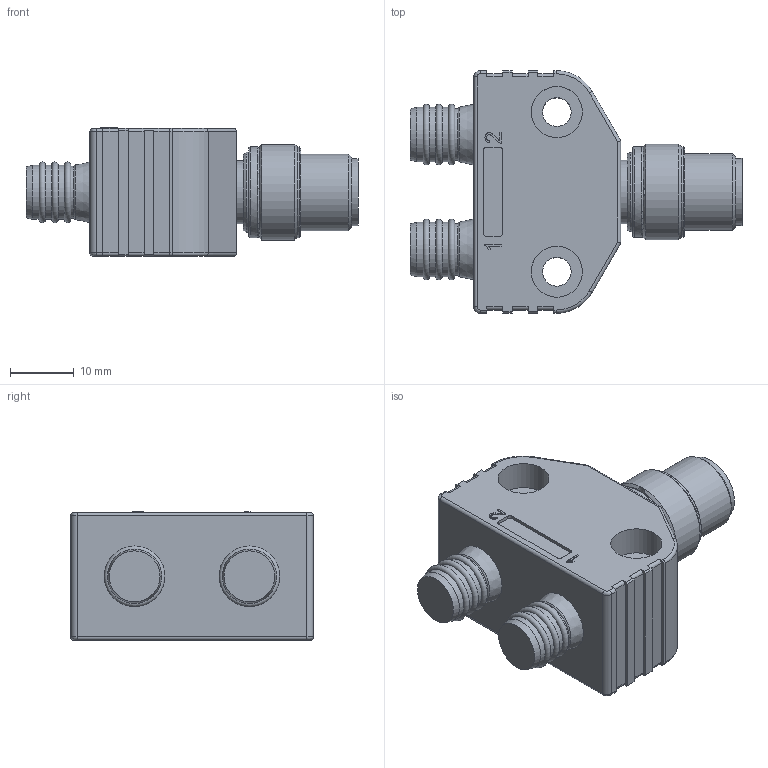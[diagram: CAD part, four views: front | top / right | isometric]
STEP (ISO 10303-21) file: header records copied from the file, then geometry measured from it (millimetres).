
FILE_DESCRIPTION(/* description */ (''),/* implementation_level */ '2;1');
FILE_NAME(/* name */ 'L:\CAD Inventor\Workspace\Catalogs\CATALOG-TURCK CONNECTORS\VB2-FSM_2 CABLES.stp',/* time_stamp */ '2021-07-14T06:32:09-05:00',/* author */ ('RSwans'),/* organization */ (''),/* preprocessor_version */ 'ST-DEVELOPER v16.5',/* originating_system */ 'Autodesk Inventor 2017',/* authorisation */ '');
FILE_SCHEMA (('AUTOMOTIVE_DESIGN { 1 0 10303 214 3 1 1 }'));
Length unit declared in the file: millimetre
Products named in the file (1): Part2
Bounding box: 52 x 38 x 20.1 mm (x, y, z)
Volume: 17944.3 mm3; surface area: 7549.6 mm2
Topology: 1 solids, 1 shells, 200 faces, 505 edges, 318 vertices
Faces by surface type: plane 81, cylinder 73, torus 19, bspline 17, cone 10
Full cylindrical faces by diameter (mm): 1.8 x1, 4.5 x2, 6.5 x2, 8 x2, 8.143 x2, 8.3 x1, 8.509 x6, 9.9 x1, 10 x1, 10.5 x1, 10.7 x1, 12 x1, 12.5 x1, 13.2 x1, 14.2 x2, 15 x1
Entity records: 6197 total; most frequent: CARTESIAN_POINT 1298, DIRECTION 969, ORIENTED_EDGE 906, EDGE_CURVE 453, AXIS2_PLACEMENT_3D 368, VERTEX_POINT 312, EDGE_LOOP 271, LINE 233
